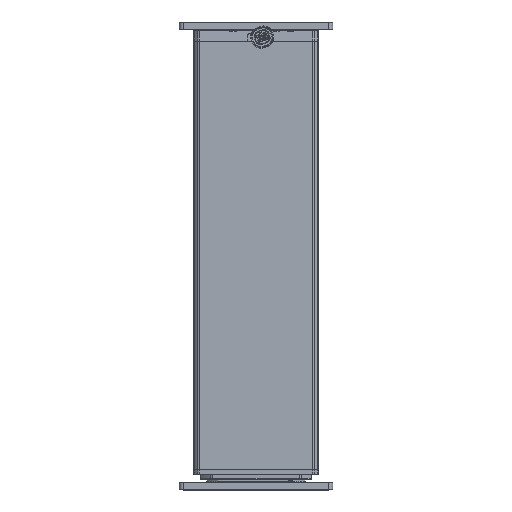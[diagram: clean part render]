
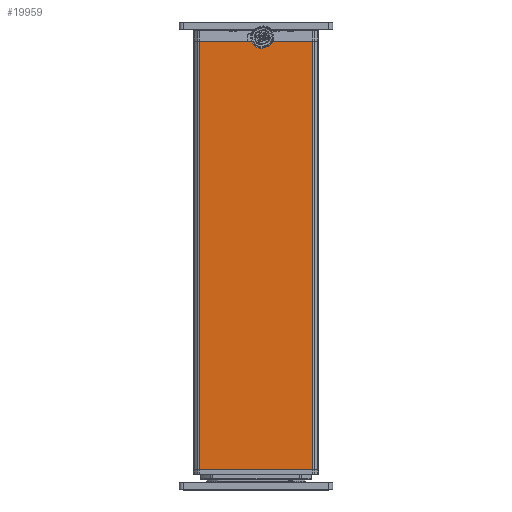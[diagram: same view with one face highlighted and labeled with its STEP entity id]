
A CAD part, top view. The second image highlights one B-rep face of the part: STEP entity #19959.
In plain terms, the highlighted planar face has unit normal (0, 0, 1).
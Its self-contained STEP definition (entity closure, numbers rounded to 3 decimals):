
#2511=CARTESIAN_POINT('',(8.099,583.,81.5));
#2512=DIRECTION('',(0.,0.,1.));
#2513=DIRECTION('',(0.,-1.,0.));
#2514=AXIS2_PLACEMENT_3D('',#2511,#2512,#2513);
#2516=DIRECTION('',(1.,0.,0.));
#2517=VECTOR('',#2516,1.193);
#2518=CARTESIAN_POINT('',(10.307,578.,81.5));
#2519=LINE('',#2518,#2517);
#2520=DIRECTION('',(-1.,0.,0.));
#2521=VECTOR('',#2520,148.207);
#2522=CARTESIAN_POINT('',(74.104,19.001,81.5));
#2523=LINE('',#2522,#2521);
#2524=DIRECTION('',(1.,0.,0.));
#2525=VECTOR('',#2524,7.);
#2526=CARTESIAN_POINT('',(-11.5,578.,81.5));
#2527=LINE('',#2526,#2525);
#2528=DIRECTION('',(1.,0.,0.));
#2529=VECTOR('',#2528,1.392);
#2530=CARTESIAN_POINT('',(4.5,578.,81.5));
#2531=LINE('',#2530,#2529);
#2532=CARTESIAN_POINT('',(8.099,583.,81.5));
#2533=DIRECTION('',(0.,0.,1.));
#2534=DIRECTION('',(-0.404,-0.915,0.));
#2535=AXIS2_PLACEMENT_3D('',#2532,#2533,#2534);
#2647=DIRECTION('',(-1.,0.,0.));
#2648=VECTOR('',#2647,9.);
#2649=CARTESIAN_POINT('',(4.5,578.,81.5));
#2650=LINE('',#2649,#2648);
#2665=DIRECTION('',(-1.,0.,0.));
#2666=VECTOR('',#2665,62.604);
#2667=CARTESIAN_POINT('',(-11.5,578.,81.5));
#2668=LINE('',#2667,#2666);
#2789=DIRECTION('',(-1.,0.,0.));
#2790=VECTOR('',#2789,62.604);
#2791=CARTESIAN_POINT('',(74.104,578.,81.5));
#2792=LINE('',#2791,#2790);
#2851=CARTESIAN_POINT('',(-74.104,578.,81.5));
#2870=DIRECTION('',(0.,-1.,0.));
#2871=VECTOR('',#2870,558.999);
#2872=CARTESIAN_POINT('',(-74.104,578.,81.5));
#2873=LINE('',#2872,#2871);
#3662=DIRECTION('',(0.,1.,0.));
#3663=VECTOR('',#3662,558.999);
#3664=CARTESIAN_POINT('',(74.104,19.001,81.5));
#3665=LINE('',#3664,#3663);
#14010=VERTEX_POINT('',#2851);
#14011=CARTESIAN_POINT('',(-74.104,19.001,
81.5));
#14012=VERTEX_POINT('',#14011);
#14016=CARTESIAN_POINT('',(4.5,578.,81.5));
#14017=VERTEX_POINT('',#14016);
#14018=CARTESIAN_POINT('',(-4.5,578.,81.5));
#14019=VERTEX_POINT('',#14018);
#14028=CARTESIAN_POINT('',(-11.5,578.,
81.5));
#14029=VERTEX_POINT('',#14028);
#14048=CARTESIAN_POINT('',(74.104,578.,81.5));
#14049=VERTEX_POINT('',#14048);
#14050=CARTESIAN_POINT('',(11.5,578.,81.5));
#14051=VERTEX_POINT('',#14050);
#14052=CARTESIAN_POINT('',(8.099,577.534,81.5));
#14053=CARTESIAN_POINT('',(10.307,578.,81.5));
#14054=VERTEX_POINT('',#14052);
#14055=VERTEX_POINT('',#14053);
#14062=CARTESIAN_POINT('',(74.104,19.001,81.5));
#14063=VERTEX_POINT('',#14062);
#14064=CARTESIAN_POINT('',(5.892,578.,81.5));
#14065=VERTEX_POINT('',#14064);
#19931=CARTESIAN_POINT('',(-74.104,19.,81.5));
#19932=DIRECTION('',(0.,0.,1.));
#19933=DIRECTION('',(1.,0.,0.));
#19934=AXIS2_PLACEMENT_3D('',#19931,#19932,#19933);
#19935=PLANE('',#19934);
#19937=ORIENTED_EDGE('',*,*,#19936,.T.);
#19939=ORIENTED_EDGE('',*,*,#19938,.T.);
#19941=ORIENTED_EDGE('',*,*,#19940,.F.);
#19943=ORIENTED_EDGE('',*,*,#19942,.F.);
#19944=ORIENTED_EDGE('',*,*,#19914,.T.);
#19946=ORIENTED_EDGE('',*,*,#19945,.F.);
#19948=ORIENTED_EDGE('',*,*,#19947,.F.);
#19950=ORIENTED_EDGE('',*,*,#19949,.T.);
#19952=ORIENTED_EDGE('',*,*,#19951,.F.);
#19954=ORIENTED_EDGE('',*,*,#19953,.T.);
#19956=ORIENTED_EDGE('',*,*,#19955,.T.);
#19957=EDGE_LOOP('',(#19937,#19939,#19941,#19943,#19944,#19946,#19948,#19950,
#19952,#19954,#19956));
#19958=FACE_OUTER_BOUND('',#19957,.F.);
#2515=CIRCLE('',#2514,5.466);
#2536=CIRCLE('',#2535,5.466);
#19914=EDGE_CURVE('',#14063,#14012,#2523,.T.);
#19936=EDGE_CURVE('',#14054,#14055,#2515,.T.);
#19938=EDGE_CURVE('',#14055,#14051,#2519,.T.);
#19940=EDGE_CURVE('',#14049,#14051,#2792,.T.);
#19942=EDGE_CURVE('',#14063,#14049,#3665,.T.);
#19945=EDGE_CURVE('',#14010,#14012,#2873,.T.);
#19947=EDGE_CURVE('',#14029,#14010,#2668,.T.);
#19949=EDGE_CURVE('',#14029,#14019,#2527,.T.);
#19951=EDGE_CURVE('',#14017,#14019,#2650,.T.);
#19953=EDGE_CURVE('',#14017,#14065,#2531,.T.);
#19955=EDGE_CURVE('',#14065,#14054,#2536,.T.);
#19959=ADVANCED_FACE('',(#19958),#19935,.T.);
